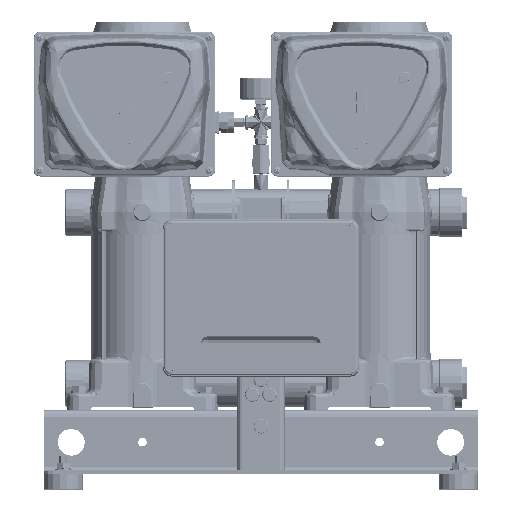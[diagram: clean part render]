
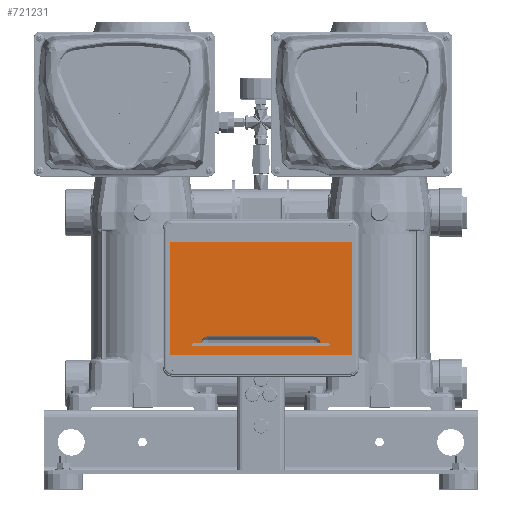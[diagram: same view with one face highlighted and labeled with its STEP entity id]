
A CAD part, top view. The second image highlights one B-rep face of the part: STEP entity #721231.
In plain terms, the highlighted planar face has unit normal (0, 0, 1).
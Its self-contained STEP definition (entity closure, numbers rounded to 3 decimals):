
#717838=DIRECTION('',(1.,0.,0.));
#717839=VECTOR('',#717838,231.);
#717840=CARTESIAN_POINT('',(-115.5,-71.5,112.5));
#717841=LINE('',#717840,#717839);
#717845=DIRECTION('',(0.,-1.,0.));
#717846=VECTOR('',#717845,143.);
#717847=CARTESIAN_POINT('',(-115.5,71.5,112.5));
#717848=LINE('',#717847,#717846);
#717852=DIRECTION('',(-1.,0.,0.));
#717853=VECTOR('',#717852,231.);
#717854=CARTESIAN_POINT('',(115.5,71.5,112.5));
#717855=LINE('',#717854,#717853);
#717859=DIRECTION('',(0.,1.,0.));
#717860=VECTOR('',#717859,143.);
#717861=CARTESIAN_POINT('',(115.5,-71.5,112.5));
#717862=LINE('',#717861,#717860);
#717866=DIRECTION('',(-1.,0.,0.));
#717867=VECTOR('',#717866,10.);
#717868=CARTESIAN_POINT('',(-75.85,-57.2,112.5));
#717869=LINE('',#717868,#717867);
#717873=CARTESIAN_POINT('',(-85.85,-58.85,112.5));
#717874=DIRECTION('',(0.,0.,1.));
#717875=DIRECTION('',(0.,1.,0.));
#717876=AXIS2_PLACEMENT_3D('',#717873,#717874,#717875);
#717881=DIRECTION('',(1.,0.,0.));
#717882=VECTOR('',#717881,171.7);
#717883=CARTESIAN_POINT('',(-85.85,-60.5,112.5));
#717884=LINE('',#717883,#717882);
#717888=CARTESIAN_POINT('',(85.85,-58.85,112.5));
#717889=DIRECTION('',(0.,0.,1.));
#717890=DIRECTION('',(0.,-1.,0.));
#717891=AXIS2_PLACEMENT_3D('',#717888,#717889,#717890);
#717896=DIRECTION('',(-1.,0.,0.));
#717897=VECTOR('',#717896,10.);
#717898=CARTESIAN_POINT('',(85.85,-57.2,112.5));
#717899=LINE('',#717898,#717897);
#717903=CARTESIAN_POINT('',(67.15,-57.2,112.5));
#717904=DIRECTION('',(0.,0.,-1.));
#717905=DIRECTION('',(0.,1.,0.));
#717906=AXIS2_PLACEMENT_3D('',#717903,#717904,#717905);
#717911=DIRECTION('',(1.,0.,0.));
#717912=VECTOR('',#717911,134.3);
#717913=CARTESIAN_POINT('',(-67.15,-48.5,112.5));
#717914=LINE('',#717913,#717912);
#717918=CARTESIAN_POINT('',(-67.15,-57.2,112.5));
#717919=DIRECTION('',(0.,0.,-1.));
#717920=DIRECTION('',(-1.,0.,0.));
#717921=AXIS2_PLACEMENT_3D('',#717918,#717919,#717920);
#718619=CARTESIAN_POINT('',(-115.5,-71.5,112.5));
#718620=CARTESIAN_POINT('',(115.5,-71.5,112.5));
#718621=VERTEX_POINT('',#718619);
#718622=VERTEX_POINT('',#718620);
#718623=CARTESIAN_POINT('',(115.5,71.5,112.5));
#718624=VERTEX_POINT('',#718623);
#718625=CARTESIAN_POINT('',(-115.5,71.5,112.5));
#718626=VERTEX_POINT('',#718625);
#718651=CARTESIAN_POINT('',(-85.85,-60.5,112.5));
#718652=CARTESIAN_POINT('',(85.85,-60.5,112.5));
#718653=VERTEX_POINT('',#718651);
#718654=VERTEX_POINT('',#718652);
#718655=CARTESIAN_POINT('',(85.85,-57.2,112.5));
#718656=VERTEX_POINT('',#718655);
#718657=CARTESIAN_POINT('',(-85.85,-57.2,112.5));
#718658=VERTEX_POINT('',#718657);
#718675=CARTESIAN_POINT('',(-75.85,-57.2,112.5));
#718676=CARTESIAN_POINT('',(-67.15,-48.5,112.5));
#718677=VERTEX_POINT('',#718675);
#718678=VERTEX_POINT('',#718676);
#718679=CARTESIAN_POINT('',(67.15,-48.5,112.5));
#718680=VERTEX_POINT('',#718679);
#718681=CARTESIAN_POINT('',(75.85,-57.2,112.5));
#718682=VERTEX_POINT('',#718681);
#721199=CARTESIAN_POINT('',(0.,0.,112.5));
#721200=DIRECTION('',(0.,0.,1.));
#721201=DIRECTION('',(1.,0.,0.));
#721202=AXIS2_PLACEMENT_3D('',#721199,#721200,#721201);
#721203=PLANE('',#721202);
#721204=ORIENTED_EDGE('',*,*,#721177,.F.);
#721206=ORIENTED_EDGE('',*,*,#721205,.F.);
#721208=ORIENTED_EDGE('',*,*,#721207,.F.);
#721210=ORIENTED_EDGE('',*,*,#721209,.F.);
#721211=EDGE_LOOP('',(#721204,#721206,#721208,#721210));
#721212=FACE_OUTER_BOUND('',#721211,.F.);
#721214=ORIENTED_EDGE('',*,*,#721213,.T.);
#721216=ORIENTED_EDGE('',*,*,#721215,.T.);
#721218=ORIENTED_EDGE('',*,*,#721217,.T.);
#721220=ORIENTED_EDGE('',*,*,#721219,.T.);
#721222=ORIENTED_EDGE('',*,*,#721221,.T.);
#721224=ORIENTED_EDGE('',*,*,#721223,.F.);
#721226=ORIENTED_EDGE('',*,*,#721225,.F.);
#721228=ORIENTED_EDGE('',*,*,#721227,.F.);
#721229=EDGE_LOOP('',(#721214,#721216,#721218,#721220,#721222,#721224,#721226,
#721228));
#721230=FACE_BOUND('',#721229,.F.);
#717877=CIRCLE('',#717876,1.65);
#717892=CIRCLE('',#717891,1.65);
#717907=CIRCLE('',#717906,8.7);
#717922=CIRCLE('',#717921,8.7);
#721177=EDGE_CURVE('',#718621,#718622,#717841,.T.);
#721205=EDGE_CURVE('',#718626,#718621,#717848,.T.);
#721207=EDGE_CURVE('',#718624,#718626,#717855,.T.);
#721209=EDGE_CURVE('',#718622,#718624,#717862,.T.);
#721213=EDGE_CURVE('',#718677,#718658,#717869,.T.);
#721215=EDGE_CURVE('',#718658,#718653,#717877,.T.);
#721217=EDGE_CURVE('',#718653,#718654,#717884,.T.);
#721219=EDGE_CURVE('',#718654,#718656,#717892,.T.);
#721221=EDGE_CURVE('',#718656,#718682,#717899,.T.);
#721223=EDGE_CURVE('',#718680,#718682,#717907,.T.);
#721225=EDGE_CURVE('',#718678,#718680,#717914,.T.);
#721227=EDGE_CURVE('',#718677,#718678,#717922,.T.);
#721231=ADVANCED_FACE('',(#721212,#721230),#721203,.T.);
